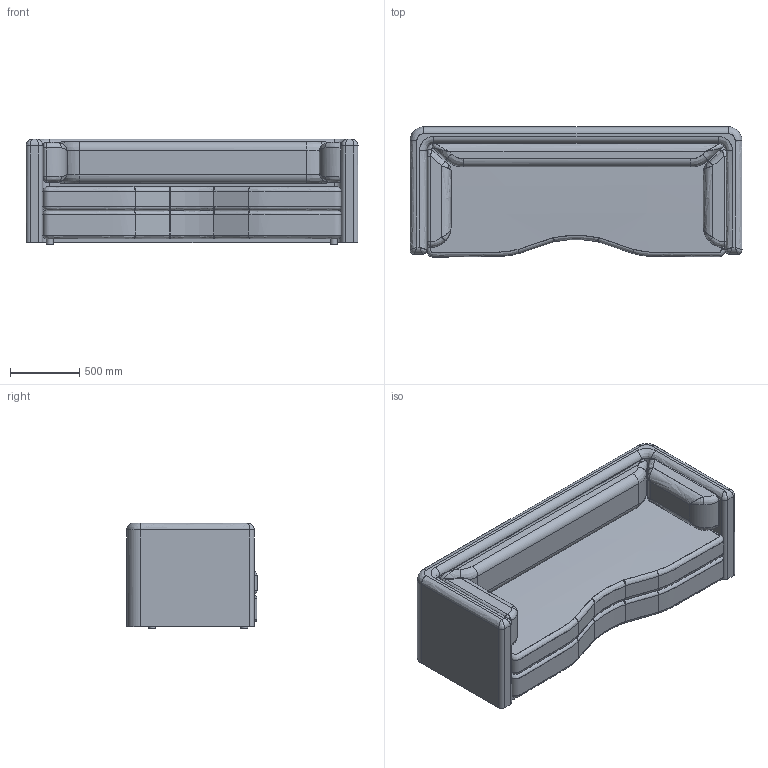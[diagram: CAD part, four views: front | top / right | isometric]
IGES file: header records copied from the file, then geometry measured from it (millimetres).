
Global section: file name: C:\Users\market02\Desktop\RYAN\VIRGULE\FVIRGCA240_CANAPE_SOFA_VIRGULE\FVIRGCA240_CANAPE_SOFA_VIRGULE.igs; native system: Rhinoceros ( Dec 14 2021 ); preprocessor: Trout Lake IGES 012 Dec 14 2021; date: 220919.074556; units: millimetre
Bounding box: 2400 x 941.71 x 766 mm (x, y, z)
Surface area: 18551943.7 mm2 (no closed solid volume)
Topology: 0 solids, 0 shells, 208 faces, 1976 edges, 1956 vertices
Faces by surface type: bspline 208
